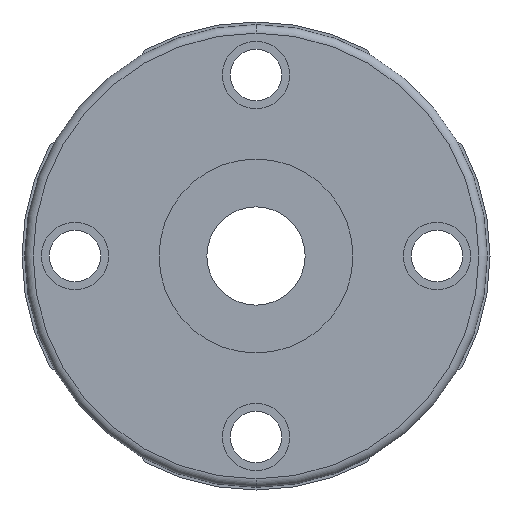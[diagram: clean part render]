
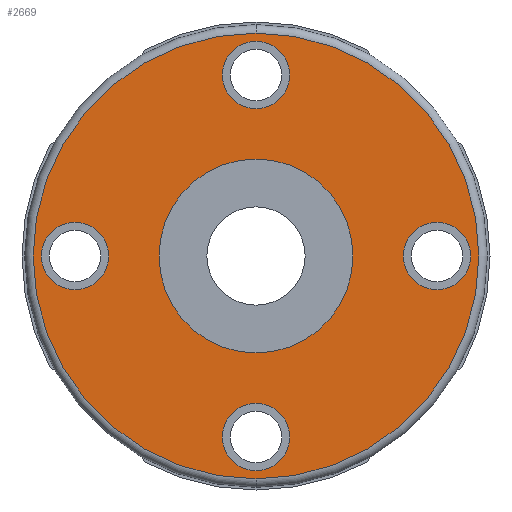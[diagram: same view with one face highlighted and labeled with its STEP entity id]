
A CAD part, front view. The second image highlights one B-rep face of the part: STEP entity #2669.
In plain terms, the highlighted planar face has unit normal (0, -1, 0).
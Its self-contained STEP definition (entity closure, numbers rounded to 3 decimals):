
#4 = AXIS2_PLACEMENT_3D ( 'NONE', #1227, #1720, #345 ) ;
#25 = CARTESIAN_POINT ( 'NONE',  ( 0., 0., 0. ) ) ;
#85 = CARTESIAN_POINT ( 'NONE',  ( 0., 0., 5.7 ) ) ;
#108 = DIRECTION ( 'NONE',  ( 0., -1., 0. ) ) ;
#140 = EDGE_CURVE ( 'NONE', #330, #2888, #1896, .T. ) ;
#155 = CIRCLE ( 'NONE', #2498, 1.3 ) ;
#236 = ORIENTED_EDGE ( 'NONE', *, *, #2108, .F. ) ;
#239 = VERTEX_POINT ( 'NONE', #882 ) ;
#244 = CIRCLE ( 'NONE', #627, 1.3 ) ;
#251 = DIRECTION ( 'NONE',  ( 0., 0., 1. ) ) ;
#265 = CARTESIAN_POINT ( 'NONE',  ( 0., 0., -5.7 ) ) ;
#269 = FACE_BOUND ( 'NONE', #1604, .T. ) ;
#270 = AXIS2_PLACEMENT_3D ( 'NONE', #1476, #1223, #1918 ) ;
#285 = EDGE_LOOP ( 'NONE', ( #2623, #1023 ) ) ;
#294 = CIRCLE ( 'NONE', #1012, 1.3 ) ;
#330 = VERTEX_POINT ( 'NONE', #265 ) ;
#345 = DIRECTION ( 'NONE',  ( 0., 0., -1. ) ) ;
#380 = EDGE_LOOP ( 'NONE', ( #2379, #2424 ) ) ;
#382 = CARTESIAN_POINT ( 'NONE',  ( 0., 0., 8.62 ) ) ;
#422 = VERTEX_POINT ( 'NONE', #2739 ) ;
#434 = DIRECTION ( 'NONE',  ( 0., 0., 1. ) ) ;
#507 = CARTESIAN_POINT ( 'NONE',  ( 0., 0., 8.3 ) ) ;
#526 = EDGE_LOOP ( 'NONE', ( #1444, #1670 ) ) ;
#531 = AXIS2_PLACEMENT_3D ( 'NONE', #2964, #933, #1841 ) ;
#627 = AXIS2_PLACEMENT_3D ( 'NONE', #1240, #108, #1021 ) ;
#635 = CIRCLE ( 'NONE', #1155, 1.3 ) ;
#653 = DIRECTION ( 'NONE',  ( 0., 1., 0. ) ) ;
#659 = VERTEX_POINT ( 'NONE', #382 ) ;
#677 = CIRCLE ( 'NONE', #2348, 3.75 ) ;
#693 = CARTESIAN_POINT ( 'NONE',  ( -7., 0., -1.3 ) ) ;
#736 = DIRECTION ( 'NONE',  ( 0., 0., -1. ) ) ;
#765 = VERTEX_POINT ( 'NONE', #2808 ) ;
#770 = CIRCLE ( 'NONE', #1349, 8.62 ) ;
#773 = PLANE ( 'NONE',  #1878 ) ;
#785 = CARTESIAN_POINT ( 'NONE',  ( -7., 0., 0. ) ) ;
#820 = CIRCLE ( 'NONE', #2544, 3.75 ) ;
#827 = CIRCLE ( 'NONE', #1648, 1.3 ) ;
#858 = VERTEX_POINT ( 'NONE', #1700 ) ;
#882 = CARTESIAN_POINT ( 'NONE',  ( 0., 0., -8.62 ) ) ;
#899 = CARTESIAN_POINT ( 'NONE',  ( 7., 0., 0. ) ) ;
#933 = DIRECTION ( 'NONE',  ( 0., -1., 0. ) ) ;
#997 = FACE_BOUND ( 'NONE', #1857, .T. ) ;
#1012 = AXIS2_PLACEMENT_3D ( 'NONE', #899, #1820, #2743 ) ;
#1021 = DIRECTION ( 'NONE',  ( 0., 0., -1. ) ) ;
#1023 = ORIENTED_EDGE ( 'NONE', *, *, #1912, .F. ) ;
#1107 = CIRCLE ( 'NONE', #1884, 1.3 ) ;
#1114 = DIRECTION ( 'NONE',  ( 0., -1., 0. ) ) ;
#1124 = CARTESIAN_POINT ( 'NONE',  ( 0., 0., 7. ) ) ;
#1147 = FACE_OUTER_BOUND ( 'NONE', #526, .T. ) ;
#1148 = CIRCLE ( 'NONE', #531, 8.62 ) ;
#1155 = AXIS2_PLACEMENT_3D ( 'NONE', #1124, #1986, #1752 ) ;
#1185 = DIRECTION ( 'NONE',  ( 0., -1., 0. ) ) ;
#1209 = VERTEX_POINT ( 'NONE', #2483 ) ;
#1223 = DIRECTION ( 'NONE',  ( 0., -1., 0. ) ) ;
#1227 = CARTESIAN_POINT ( 'NONE',  ( 0., 0., -7. ) ) ;
#1240 = CARTESIAN_POINT ( 'NONE',  ( 0., 0., 7. ) ) ;
#1286 = EDGE_CURVE ( 'NONE', #659, #239, #770, .T. ) ;
#1349 = AXIS2_PLACEMENT_3D ( 'NONE', #2527, #1185, #1859 ) ;
#1353 = ORIENTED_EDGE ( 'NONE', *, *, #2350, .F. ) ;
#1381 = DIRECTION ( 'NONE',  ( 0., 0., -1. ) ) ;
#1391 = EDGE_CURVE ( 'NONE', #1492, #422, #820, .T. ) ;
#1401 = CIRCLE ( 'NONE', #4, 1.3 ) ;
#1404 = VERTEX_POINT ( 'NONE', #507 ) ;
#1444 = ORIENTED_EDGE ( 'NONE', *, *, #1286, .T. ) ;
#1476 = CARTESIAN_POINT ( 'NONE',  ( 0., 0., -7. ) ) ;
#1492 = VERTEX_POINT ( 'NONE', #2166 ) ;
#1604 = EDGE_LOOP ( 'NONE', ( #2772, #236 ) ) ;
#1648 = AXIS2_PLACEMENT_3D ( 'NONE', #2311, #1880, #736 ) ;
#1655 = ORIENTED_EDGE ( 'NONE', *, *, #2698, .F. ) ;
#1670 = ORIENTED_EDGE ( 'NONE', *, *, #2317, .T. ) ;
#1698 = CARTESIAN_POINT ( 'NONE',  ( 0., 0., 0. ) ) ;
#1700 = CARTESIAN_POINT ( 'NONE',  ( 7., 0., -1.3 ) ) ;
#1709 = EDGE_LOOP ( 'NONE', ( #2445, #1655 ) ) ;
#1710 = DIRECTION ( 'NONE',  ( 0., 0., -1. ) ) ;
#1720 = DIRECTION ( 'NONE',  ( 0., -1., 0. ) ) ;
#1752 = DIRECTION ( 'NONE',  ( 0., 0., -1. ) ) ;
#1820 = DIRECTION ( 'NONE',  ( 0., -1., 0. ) ) ;
#1841 = DIRECTION ( 'NONE',  ( 0., 0., 1. ) ) ;
#1857 = EDGE_LOOP ( 'NONE', ( #1353, #2054 ) ) ;
#1859 = DIRECTION ( 'NONE',  ( 0., 0., 1. ) ) ;
#1878 = AXIS2_PLACEMENT_3D ( 'NONE', #1698, #2518, #434 ) ;
#1880 = DIRECTION ( 'NONE',  ( 0., -1., 0. ) ) ;
#1884 = AXIS2_PLACEMENT_3D ( 'NONE', #785, #2878, #1710 ) ;
#1896 = CIRCLE ( 'NONE', #270, 1.3 ) ;
#1912 = EDGE_CURVE ( 'NONE', #1209, #2203, #1107, .T. ) ;
#1918 = DIRECTION ( 'NONE',  ( 0., 0., -1. ) ) ;
#1986 = DIRECTION ( 'NONE',  ( 0., -1., 0. ) ) ;
#2054 = ORIENTED_EDGE ( 'NONE', *, *, #140, .F. ) ;
#2108 = EDGE_CURVE ( 'NONE', #1404, #2666, #635, .T. ) ;
#2166 = CARTESIAN_POINT ( 'NONE',  ( 0., 0., -3.75 ) ) ;
#2203 = VERTEX_POINT ( 'NONE', #693 ) ;
#2255 = EDGE_CURVE ( 'NONE', #2203, #1209, #827, .T. ) ;
#2273 = CARTESIAN_POINT ( 'NONE',  ( 0., 0., 0. ) ) ;
#2280 = FACE_BOUND ( 'NONE', #380, .T. ) ;
#2301 = DIRECTION ( 'NONE',  ( 0., 1., 0. ) ) ;
#2308 = FACE_BOUND ( 'NONE', #1709, .T. ) ;
#2311 = CARTESIAN_POINT ( 'NONE',  ( -7., 0., 0. ) ) ;
#2317 = EDGE_CURVE ( 'NONE', #239, #659, #1148, .T. ) ;
#2348 = AXIS2_PLACEMENT_3D ( 'NONE', #2273, #653, #2693 ) ;
#2350 = EDGE_CURVE ( 'NONE', #2888, #330, #1401, .T. ) ;
#2379 = ORIENTED_EDGE ( 'NONE', *, *, #2963, .T. ) ;
#2424 = ORIENTED_EDGE ( 'NONE', *, *, #1391, .T. ) ;
#2445 = ORIENTED_EDGE ( 'NONE', *, *, #2950, .F. ) ;
#2460 = EDGE_CURVE ( 'NONE', #2666, #1404, #244, .T. ) ;
#2483 = CARTESIAN_POINT ( 'NONE',  ( -7., 0., 1.3 ) ) ;
#2498 = AXIS2_PLACEMENT_3D ( 'NONE', #2942, #1114, #1381 ) ;
#2518 = DIRECTION ( 'NONE',  ( 0., 1., 0. ) ) ;
#2527 = CARTESIAN_POINT ( 'NONE',  ( 0., 0., 0. ) ) ;
#2544 = AXIS2_PLACEMENT_3D ( 'NONE', #25, #2301, #251 ) ;
#2623 = ORIENTED_EDGE ( 'NONE', *, *, #2255, .F. ) ;
#2666 = VERTEX_POINT ( 'NONE', #85 ) ;
#2669 = ADVANCED_FACE ( 'NONE', ( #1147, #269, #2308, #997, #2819, #2280 ), #773, .F. ) ;
#2693 = DIRECTION ( 'NONE',  ( 0., 0., 1. ) ) ;
#2698 = EDGE_CURVE ( 'NONE', #765, #858, #294, .T. ) ;
#2739 = CARTESIAN_POINT ( 'NONE',  ( 0., 0., 3.75 ) ) ;
#2743 = DIRECTION ( 'NONE',  ( 0., 0., -1. ) ) ;
#2772 = ORIENTED_EDGE ( 'NONE', *, *, #2460, .F. ) ;
#2808 = CARTESIAN_POINT ( 'NONE',  ( 7., 0., 1.3 ) ) ;
#2819 = FACE_BOUND ( 'NONE', #285, .T. ) ;
#2878 = DIRECTION ( 'NONE',  ( 0., -1., 0. ) ) ;
#2888 = VERTEX_POINT ( 'NONE', #2955 ) ;
#2942 = CARTESIAN_POINT ( 'NONE',  ( 7., 0., 0. ) ) ;
#2950 = EDGE_CURVE ( 'NONE', #858, #765, #155, .T. ) ;
#2955 = CARTESIAN_POINT ( 'NONE',  ( 0., 0., -8.3 ) ) ;
#2963 = EDGE_CURVE ( 'NONE', #422, #1492, #677, .T. ) ;
#2964 = CARTESIAN_POINT ( 'NONE',  ( 0., 0., 0. ) ) ;
